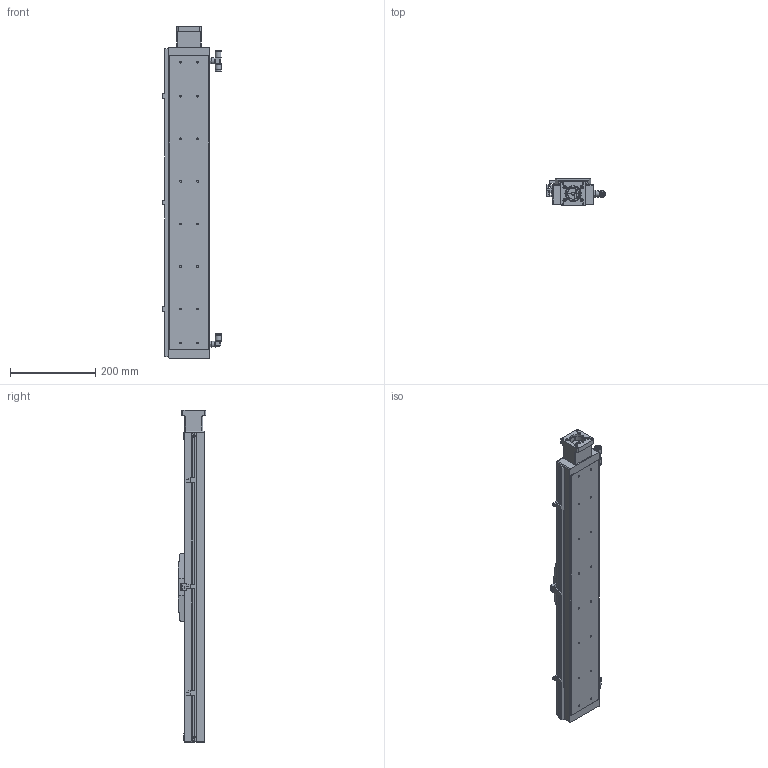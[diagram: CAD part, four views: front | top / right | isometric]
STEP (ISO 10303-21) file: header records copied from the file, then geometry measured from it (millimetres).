
FILE_DESCRIPTION((''),'2;1');
FILE_NAME('E:\libraries\UIA actuator library 2016\Clean room actuator\UIA098CR12DC\UIA098CR12 stp file 05May16\UIA098CR12DC-500-R16_ _-M23-P13-C10-S.stp','2016-05-09T14:58:59',('h029'),(''),'Autodesk Inventor 11','Autodesk Inventor 11','');
FILE_SCHEMA(('AUTOMOTIVE_DESIGN { 1 0 10303 214 1 1 1 1 }'));
Length unit declared in the file: millimetre
Products named in the file (12): UIA098CR12DC-500; body, UIA098CR12DC-500; carriage, UIA098CR12DC; Sensor Switch, UIA098CR12DC; Motor mount; SOH-25C; SOH-25C-2; SOH-25C-3; SOH-25C-1; Sensor Rail, UIA098CR12DC-500_MIR; vacuum port 1, UIA098CR12DC_MIR; vacuum port 2, UIA098CR12DC_MIR
Assembly tree (11 placements, depth 3):
  UIA098CR12DC-500
    body, UIA098CR12DC-500
    carriage, UIA098CR12DC
    Sensor Switch, UIA098CR12DC
    Motor mount
    SOH-25C
      SOH-25C-2
      SOH-25C-3
      SOH-25C-1
    Sensor Rail, UIA098CR12DC-500_MIR
    vacuum port 1, UIA098CR12DC_MIR
    vacuum port 2, UIA098CR12DC_MIR
Bounding box: 138.4 x 65.5 x 780 mm (x, y, z)
Volume: 3524452.3 mm3; surface area: 346467.7 mm2
Topology: 10 solids, 10 shells, 676 faces, 1749 edges, 1140 vertices
Faces by surface type: plane 295, bspline 292, cylinder 86, cone 3
Full cylindrical faces by diameter (mm): 3 x3, 5.6 x8, 8 x4, 9 x2, 10 x1, 13 x1, 15 x2, 18 x1, 25.5 x3, 37 x1, 38.1 x1
Entity records: 21871 total; most frequent: CARTESIAN_POINT 6468, ORIENTED_EDGE 3120, DIRECTION 2745, EDGE_CURVE 1560, VECTOR 1123, LINE 1123, VERTEX_POINT 1082, EDGE_LOOP 938
